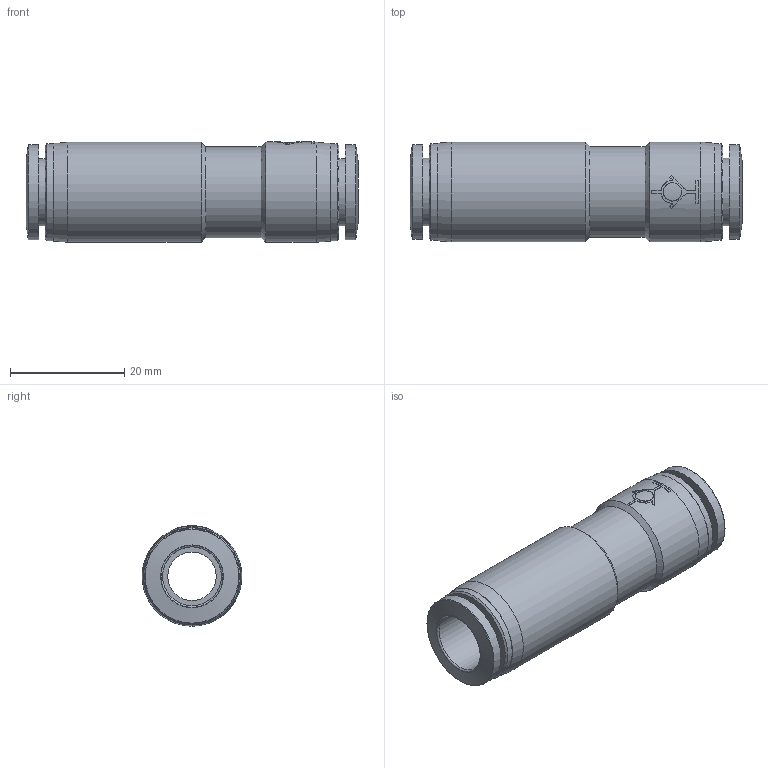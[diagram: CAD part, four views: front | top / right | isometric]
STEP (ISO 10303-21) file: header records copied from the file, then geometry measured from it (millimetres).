
FILE_DESCRIPTION((''),'2;1');
FILE_NAME('D:\INVENTOR\[New Inventor]\CDC Products 3D Ass''y\Stop Fittings\Metric\SPU\SPU10.stp','2009-02-13T13:30:33',('Microsoft'),(''),'Autodesk Inventor 2008','Autodesk Inventor 2008','');
FILE_SCHEMA(('AUTOMOTIVE_DESIGN { 1 0 10303 214 1 1 1 1 }'));
Length unit declared in the file: millimetre
Products named in the file (1): SPU10
Bounding box: 58.2 x 17.5 x 17.6 mm (x, y, z)
Volume: 8654.9 mm3; surface area: 5611.3 mm2
Topology: 1 solids, 1 shells, 55 faces, 115 edges, 72 vertices
Faces by surface type: plane 26, cylinder 17, cone 8, bspline 2, torus 2
Full cylindrical faces by diameter (mm): 3.2 x1, 8.5 x1, 10.3 x2, 11.8 x2, 15.9 x1, 16.6 x2, 17 x2, 17.5 x2
Entity records: 1618 total; most frequent: CARTESIAN_POINT 480, DIRECTION 246, ORIENTED_EDGE 180, AXIS2_PLACEMENT_3D 108, EDGE_LOOP 92, EDGE_CURVE 90, VERTEX_POINT 72, FACE_OUTER_BOUND 55
